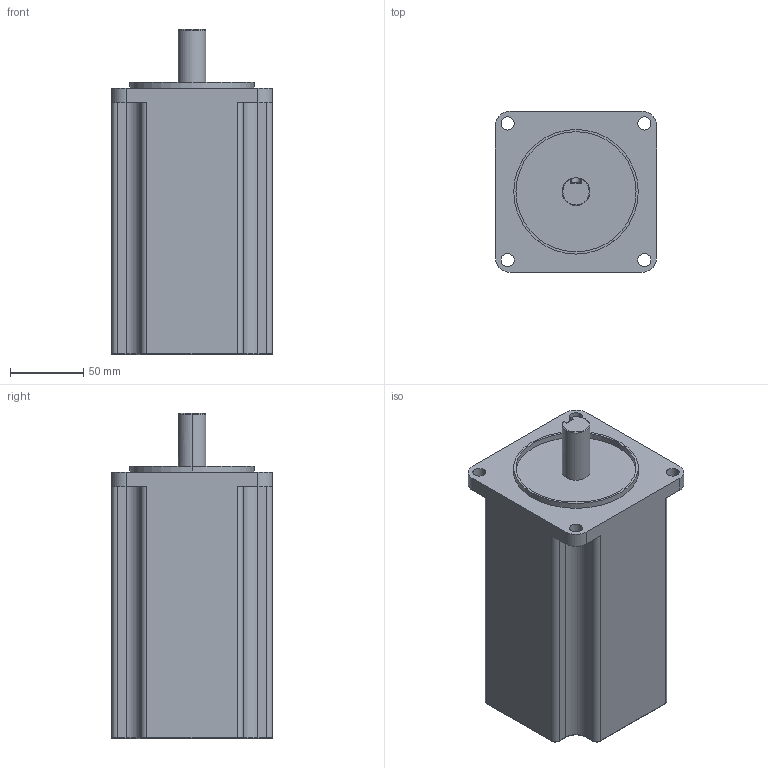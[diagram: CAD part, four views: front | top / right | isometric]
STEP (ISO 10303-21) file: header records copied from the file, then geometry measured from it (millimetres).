
FILE_DESCRIPTION (( 'STEP AP203' ), '1' );
FILE_NAME ('TM4203C65A.STEP', '2019-04-28T06:16:34', ( 'User' ), ( 'www.dadighost.com' ), 'SwSTEP 2.0', 'SolidWorks 2014', '' );
FILE_SCHEMA (( 'CONFIG_CONTROL_DESIGN' ));
Length unit declared in the file: millimetre
Products named in the file (1): TM4203C65A
Bounding box: 110 x 110 x 222 mm (x, y, z)
Volume: 1945937.7 mm3; surface area: 103797.9 mm2
Topology: 1 solids, 1 shells, 85 faces, 210 edges, 130 vertices
Faces by surface type: cylinder 46, plane 24, torus 15
Entity records: 2659 total; most frequent: DIRECTION 480, CARTESIAN_POINT 477, ORIENTED_EDGE 420, EDGE_CURVE 210, AXIS2_PLACEMENT_3D 189, VERTEX_POINT 130, CIRCLE 103, LINE 102
